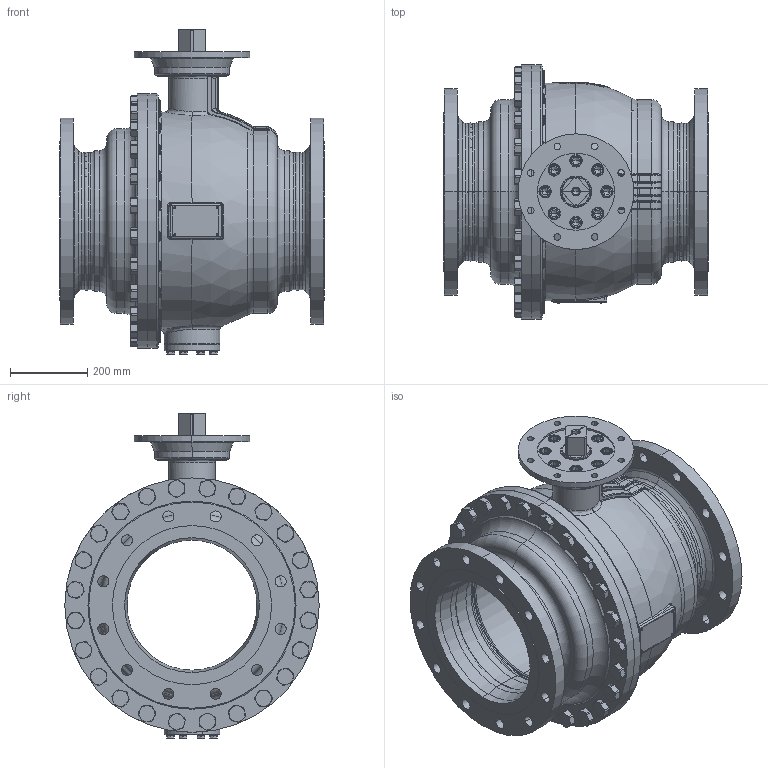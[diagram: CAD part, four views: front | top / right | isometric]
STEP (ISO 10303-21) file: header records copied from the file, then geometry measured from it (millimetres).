
FILE_DESCRIPTION((''),'2;1');
FILE_NAME('KHI-F_350_CL150-F25-4_SW0001','2026-02-05T15:36:20',('fischerkl'),('KLINGER'),'CREO PARAMETRIC BY PTC INC, 2023014','CREO PARAMETRIC BY PTC INC, 2023014','');
FILE_SCHEMA(('CONFIG_CONTROL_DESIGN'));
Products named in the file (1): KHI-F_350_CL150-F25-4_SW0001
Bounding box: 686 x 660 x 842.8 mm (x, y, z)
Volume: 44218459.6 mm3; surface area: 5961854.4 mm2
Topology: 1 solids, 4 shells, 3397 faces, 8555 edges, 5334 vertices
Faces by surface type: plane 1734, cylinder 781, cone 454, torus 299, bspline 99, sphere 30
Entity records: 143071 total; most frequent: CARTESIAN_POINT 62249, ORIENTED_EDGE 17058, DIRECTION 16753, EDGE_CURVE 8529, AXIS2_PLACEMENT_3D 6387, VERTEX_POINT 5334, VECTOR 3979, LINE 3979
